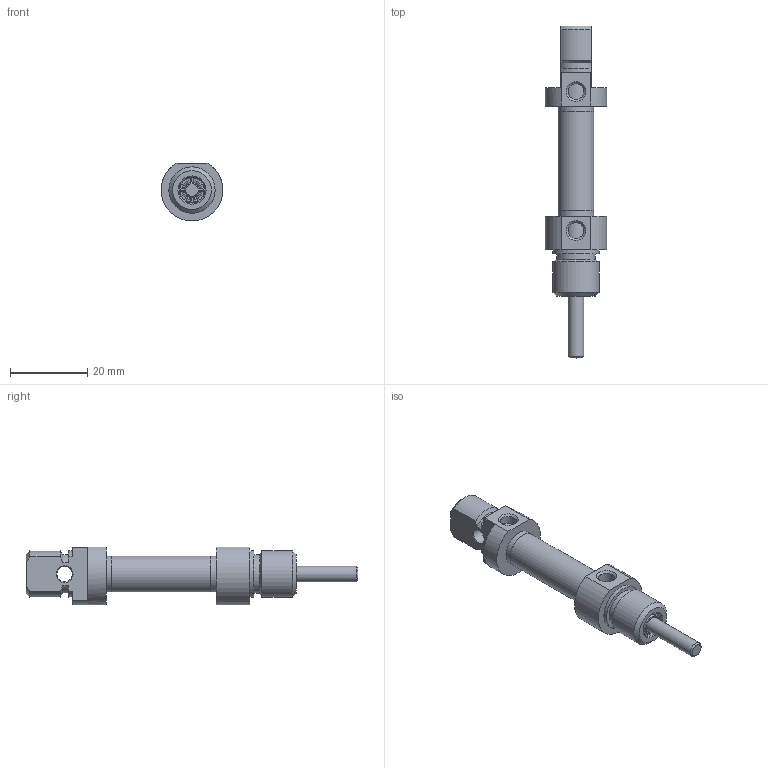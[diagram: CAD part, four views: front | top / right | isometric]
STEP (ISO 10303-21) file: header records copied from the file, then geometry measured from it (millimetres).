
FILE_DESCRIPTION((''),'2;1');
FILE_NAME('T:\Archivio Inventor\- 00 NUOVI STP PER SITO CON STELO CHE SI MUOVE\SERIE O\ODM\ODM008.---.GS.M\ODM008.000.GS.M.stp','2014-02-25T14:17:06',('carlo.corazza'),(''),'Autodesk Inventor 2012','Autodesk Inventor 2012','');
FILE_SCHEMA(('AUTOMOTIVE_DESIGN { 1 0 10303 214 1 1 1 1 }'));
Length unit declared in the file: millimetre
Products named in the file (5): ODM008..GS.M; TP; STELO-000; CORPO-000; TA
Assembly tree (4 placements, depth 2):
  ODM008..GS.M
    TP
    STELO-000
    CORPO-000
    TA
Bounding box: 16 x 86 x 15 mm (x, y, z)
Volume: 6384.1 mm3; surface area: 5282.8 mm2
Topology: 4 solids, 4 shells, 90 faces, 180 edges, 114 vertices
Faces by surface type: plane 32, cylinder 29, cone 22, torus 7
Full cylindrical faces by diameter (mm): 3 x1, 4 x2, 4.134 x2, 4.426 x1, 4.7 x1, 6.5 x1, 6.6 x1, 6.7 x1, 8 x1, 8.1 x1, 8.2 x1, 9.2 x2, 9.27 x1, 10 x1, 12 x2
Entity records: 2353 total; most frequent: CARTESIAN_POINT 419, DIRECTION 402, ORIENTED_EDGE 260, AXIS2_PLACEMENT_3D 183, EDGE_LOOP 154, EDGE_CURVE 130, VERTEX_POINT 108, FACE_OUTER_BOUND 90
